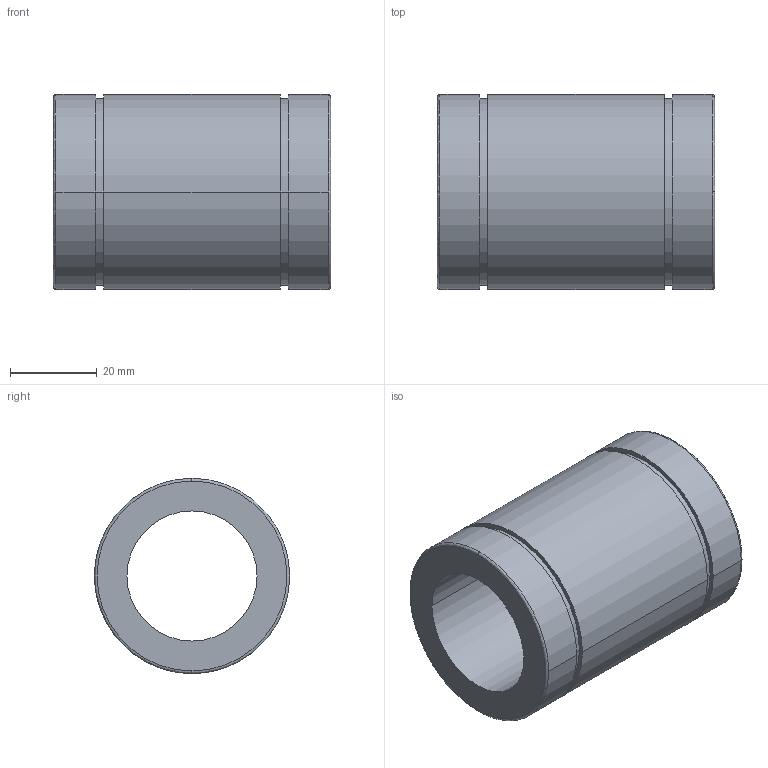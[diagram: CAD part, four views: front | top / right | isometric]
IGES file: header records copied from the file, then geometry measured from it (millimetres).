
Start section: 3D InterOp IGES (Version 21 0 1), Spatial Corp. Copyright (c) 1999-2007.
Global section: file name: N-30LUU.igs; native system: Spatial Corp.; preprocessor: 3D InterOp GENERIC/IGES 3.0; author: Noname; organization: Noname; date: 20220311.144924; units: millimetre
Bounding box: 64 x 45 x 45 mm (x, y, z)
Surface area: 17303.3 mm2 (no closed solid volume)
Topology: 0 solids, 0 shells, 22 faces, 100 edges, 100 vertices
Faces by surface type: revolution 16, extrusion 6
